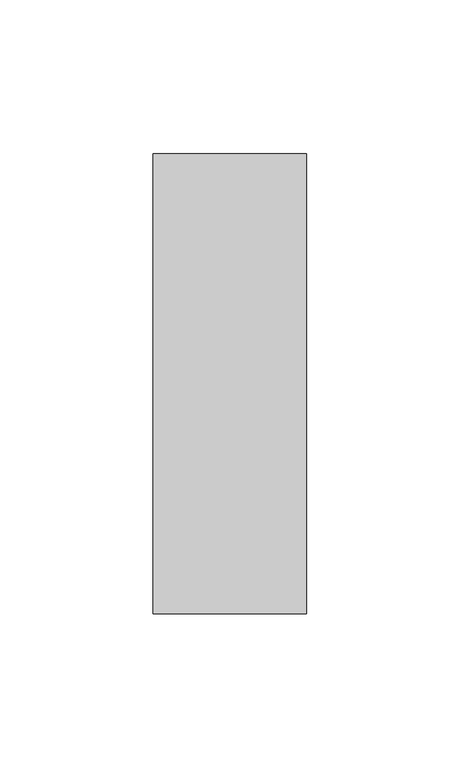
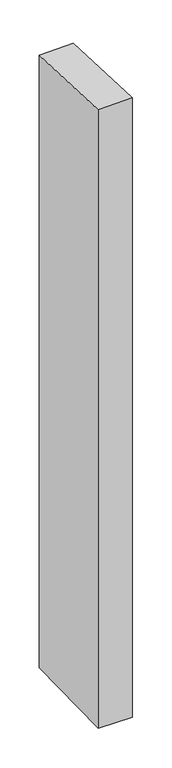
"""IFC4 building model written with IfcOpenShell, lengths in millimetres: member geometry, Прямоугольный импост : 50 x 150 мм."""

from ifc_helpers import new_model, si_unit, origin, place, context, project, spatial, faceted_brep, source, transform, mapped, element, save


def member_2db8535f(model_context):
    return source(origin(), model_context, "Body", "Brep", [
        faceted_brep([(-25.0, 75.0, -3.5496593), (25.0, 75.0, -2.615652), (25.0, 75.0, -955.7489077), (-25.0, 75.0, -954.7285753), (-25.0, -75.0, 2.615652), (-25.0, -75.0, -957.6146367), (25.0, -75.0, 3.5496593), (25.0, -75.0, -958.6349691)], [[[0, 1, 2, 3]], [[4, 0, 3, 5]], [[6, 4, 5, 7]], [[1, 6, 7, 2]], [[1, 0, 4, 6]], [[2, 7, 5, 3]]]),
    ])


if __name__ == "__main__":
    model = new_model("IFC4")
    model_context = context("Model", 3, world=origin())
    ifc_project = project(units=[si_unit("LENGTHUNIT", "METRE", prefix="MILLI")], contexts=[model_context])
    site = spatial("IfcSite", under=ifc_project)
    building = spatial("IfcBuilding", under=site)
    placement = place(None, origin())
    member_shape = member_2db8535f(model_context)
    element("IfcMember", 1, ObjectType="Прямоугольный импост : 50 x 150 мм", at=placement, inside=building, context=model_context, shape_type="MappedRepresentation", body=[
        mapped(member_shape, transform((0.0, 0.0, 0.0), x_axis=(1.0, 0.0, 0.0), y_axis=(0.0, 1.0, 0.0), z_axis=(0.0, 0.0, 1.0))),
    ])
    save(model, "model.ifc")
